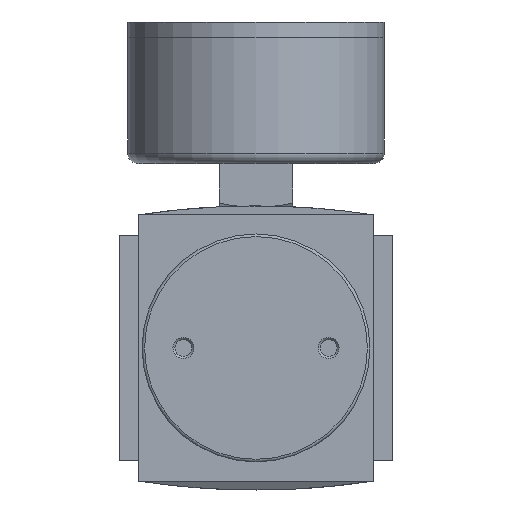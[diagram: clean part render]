
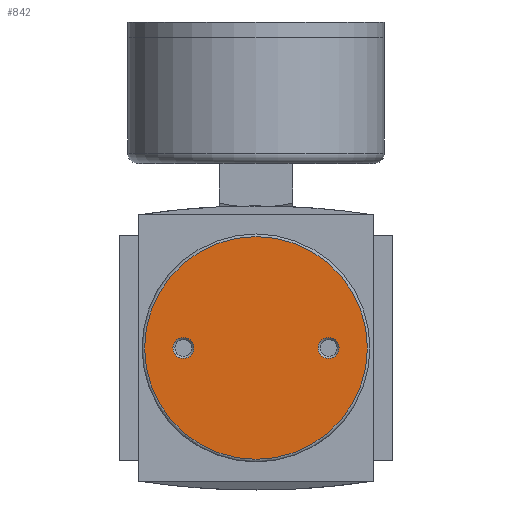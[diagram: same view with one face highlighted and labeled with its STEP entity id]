
A CAD part, front view. The second image highlights one B-rep face of the part: STEP entity #842.
In plain terms, the highlighted planar face has unit normal (0, -1, 0).
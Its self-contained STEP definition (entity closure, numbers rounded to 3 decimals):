
#842 = ADVANCED_FACE( '', ( #2001, #2002, #2003 ), #2004, .F. );
#2001 = FACE_BOUND( '', #3522, .T. );
#2002 = FACE_OUTER_BOUND( '', #3523, .T. );
#2003 = FACE_BOUND( '', #3524, .T. );
#2004 = PLANE( '', #3525 );
#3522 = EDGE_LOOP( '', ( #5842 ) );
#3523 = EDGE_LOOP( '', ( #5843 ) );
#3524 = EDGE_LOOP( '', ( #5844 ) );
#3525 = AXIS2_PLACEMENT_3D( '', #5845, #5846, #5847 );
#5842 = ORIENTED_EDGE( '', *, *, #9659, .F. );
#5843 = ORIENTED_EDGE( '', *, *, #9660, .T. );
#5844 = ORIENTED_EDGE( '', *, *, #9661, .F. );
#5845 = CARTESIAN_POINT( '', ( 21.25, -33., 0. ) );
#5846 = DIRECTION( '', ( 0., 1., 0. ) );
#5847 = DIRECTION( '', ( 0., 0., 1. ) );
#9659 = EDGE_CURVE( '', #11884, #11884, #11885, .F. );
#9660 = EDGE_CURVE( '', #11886, #11886, #11887, .T. );
#9661 = EDGE_CURVE( '', #11888, #11888, #11889, .T. );
#11884 = VERTEX_POINT( '', #15033 );
#11885 = CIRCLE( '', #15034, 2. );
#11886 = VERTEX_POINT( '', #15035 );
#11887 = CIRCLE( '', #15036, 21.25 );
#11888 = VERTEX_POINT( '', #15037 );
#11889 = CIRCLE( '', #15038, 2. );
#15033 = CARTESIAN_POINT( '', ( 13.85, -33., 2. ) );
#15034 = AXIS2_PLACEMENT_3D( '', #17596, #17597, #17598 );
#15035 = CARTESIAN_POINT( '', ( 0., -33., -21.25 ) );
#15036 = AXIS2_PLACEMENT_3D( '', #17599, #17600, #17601 );
#15037 = CARTESIAN_POINT( '', ( -13.85, -33., -2. ) );
#15038 = AXIS2_PLACEMENT_3D( '', #17602, #17603, #17604 );
#17596 = CARTESIAN_POINT( '', ( 13.85, -33., 0. ) );
#17597 = DIRECTION( '', ( 0., 1., 0. ) );
#17598 = DIRECTION( '', ( 0., 0., 1. ) );
#17599 = CARTESIAN_POINT( '', ( 0., -33., 0. ) );
#17600 = DIRECTION( '', ( 0., -1., 0. ) );
#17601 = DIRECTION( '', ( 0., 0., -1. ) );
#17602 = CARTESIAN_POINT( '', ( -13.85, -33., 0. ) );
#17603 = DIRECTION( '', ( 0., -1., 0. ) );
#17604 = DIRECTION( '', ( 0., 0., -1. ) );
